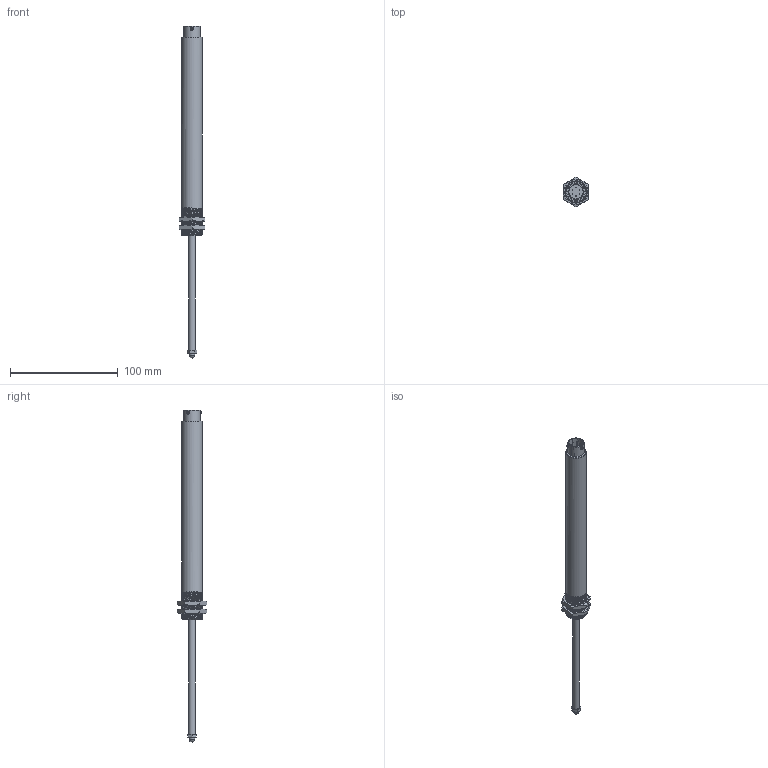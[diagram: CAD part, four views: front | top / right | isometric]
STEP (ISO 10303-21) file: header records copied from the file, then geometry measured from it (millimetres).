
FILE_DESCRIPTION(/* description */ (''),/* implementation_level */ '2;1');
FILE_NAME(/* name */ 'ILPS-18S-100-A-02-YY-Z.stp',/* time_stamp */ '2026-01-27T15:15:33-05:00',/* author */ ('wingm'),/* organization */ (''),/* preprocessor_version */ 'ST-DEVELOPER v20.1',/* originating_system */ 'Autodesk Inventor 2026',/* authorisation */ '');
FILE_SCHEMA (('AUTOMOTIVE_DESIGN { 1 0 10303 214 3 1 1 }'));
Length unit declared in the file: inch
Products named in the file (8): Assembly1; Body; End Cap; Shaft; Lining; PT02-10; Hex Nut; #9540
Assembly tree (8 placements, depth 2):
  Assembly1
    Body
    End Cap
    Shaft
    Lining
    PT02-10
    Hex Nut  x2
    #9540
Bounding box: 24 x 27.71 x 308.61 mm (x, y, z)
Volume: 16887.2 mm3; surface area: 33862.5 mm2
Topology: 15 solids, 15 shells, 168 faces, 364 edges, 242 vertices
Faces by surface type: plane 75, cylinder 69, cone 10, bspline 10, torus 3, sphere 1
Full cylindrical faces by diameter (mm): 0.762 x6, 1.905 x1, 2.032 x3, 2.845 x3, 3.048 x3, 5.08 x1, 6.35 x2, 6.858 x2, 13.208 x1, 14.986 x1, 17.069 x3, 18.415 x2, 19.05 x28
Entity records: 9522 total; most frequent: CARTESIAN_POINT 6001, ORIENTED_EDGE 632, DIRECTION 630, EDGE_CURVE 316, AXIS2_PLACEMENT_3D 249, VERTEX_POINT 211, EDGE_LOOP 171, FACE_OUTER_BOUND 149
